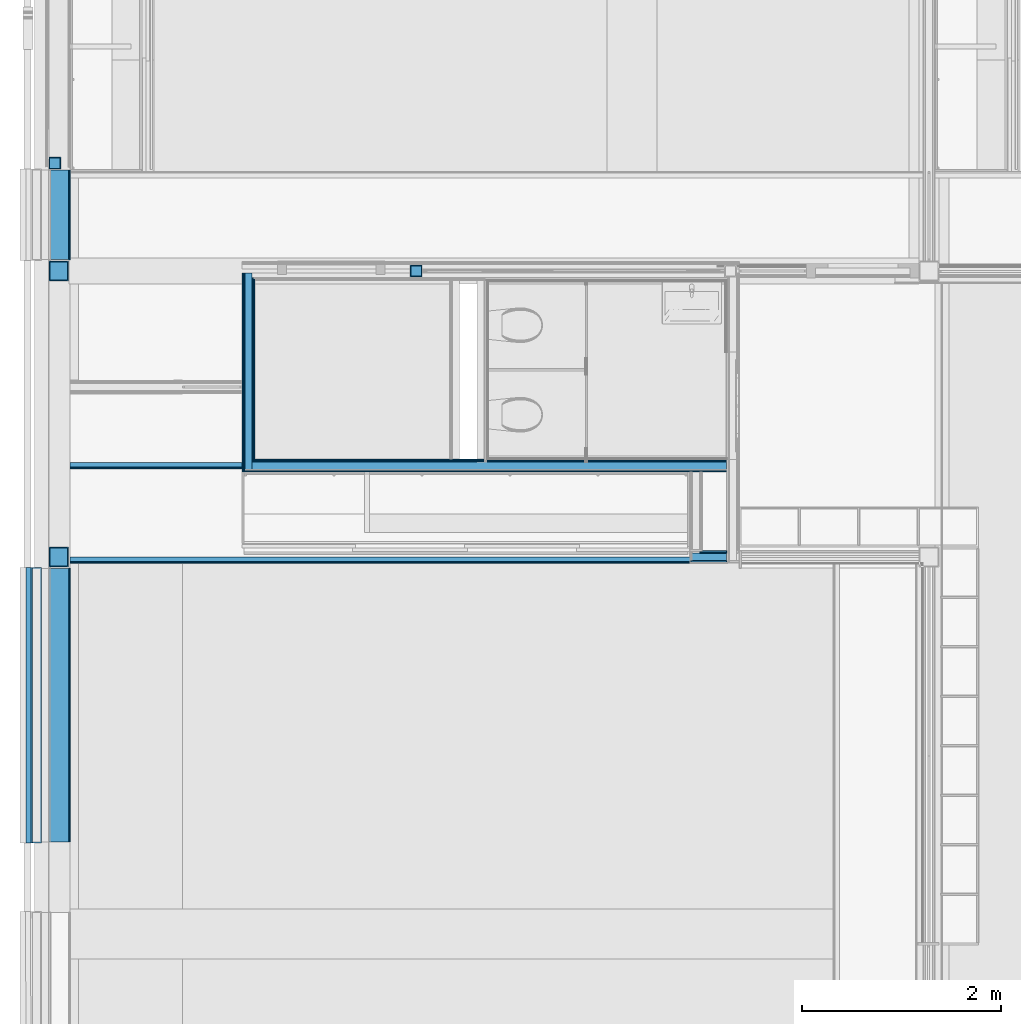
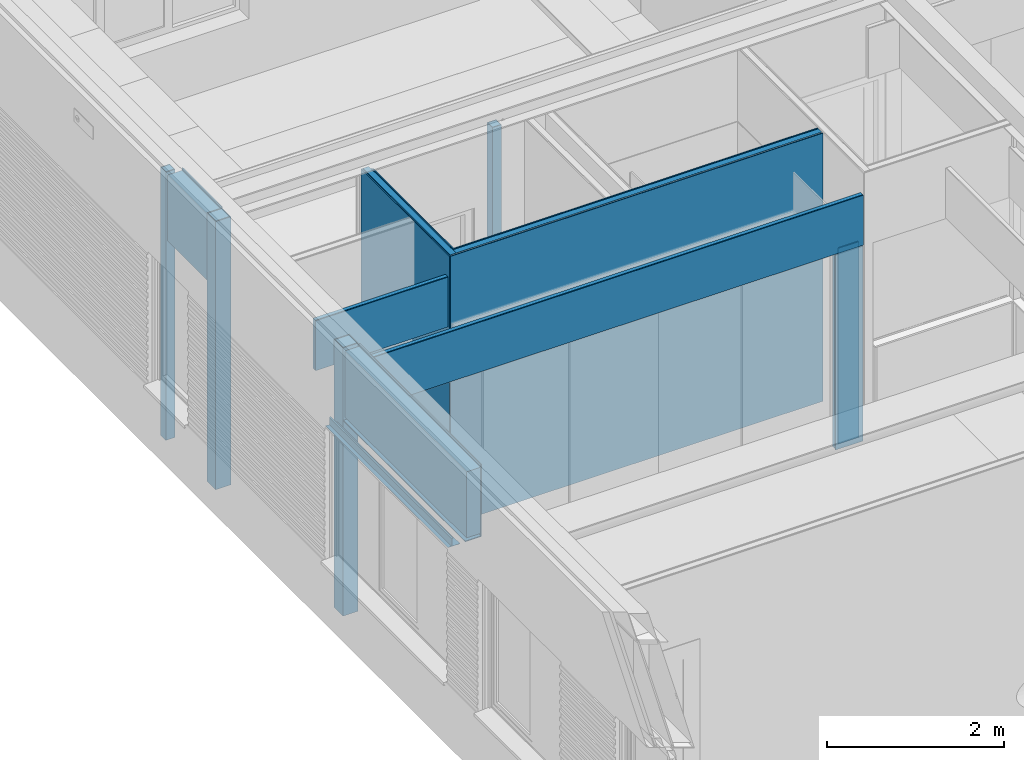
# One storey, part 77 of 137: 32 building element parts, 12 elements without a shape of their own.
"""IFC2X3 building model written with IfcOpenShell, lengths in millimetres."""

from ifc_helpers import new_model, entity, si_unit, converted_unit, derived_unit, money_unit, direction, frame, origin_with_axes, place, context, subcontext, project, spatial, faceted_brep, material, type_object, element, aggregate, save


model = new_model("IFC2X3")

# Units and contexts
model_context = context("Model", 3, precision=0.01, world=origin_with_axes(), true_north=direction((0.0, 1.0)))
body_context = subcontext(model_context, "Body", "Model", "MODEL_VIEW")
ifc_project = project(units=[si_unit("LENGTHUNIT", "METRE", prefix="MILLI"), si_unit("AREAUNIT", "SQUARE_METRE"), si_unit("VOLUMEUNIT", "CUBIC_METRE"), converted_unit("PLANEANGLEUNIT", "DEGREE", entity("IfcPlaneAngleMeasure", 0.0174532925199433), si_unit("PLANEANGLEUNIT", "RADIAN"), dimensions=[0, 0, 0, 0, 0, 0, 0]), money_unit("EUR"), converted_unit("TIMEUNIT", "Year", entity("IfcTimeMeasure", 31556926.0), si_unit("TIMEUNIT", "SECOND"), dimensions=[0, 0, 1, 0, 0, 0, 0]), si_unit("MASSUNIT", "GRAM", prefix="KILO"), si_unit("THERMODYNAMICTEMPERATUREUNIT", "DEGREE_CELSIUS"), si_unit("LUMINOUSINTENSITYUNIT", "LUMEN"), si_unit("ENERGYUNIT", "JOULE", prefix="MEGA"), derived_unit("THERMALCONDUCTANCEUNIT", [(si_unit("POWERUNIT", "WATT"), 1), (si_unit("LENGTHUNIT", "METRE"), -1), (si_unit("THERMODYNAMICTEMPERATUREUNIT", "KELVIN"), -1)]), derived_unit("SPECIFICHEATCAPACITYUNIT", [(si_unit("ENERGYUNIT", "JOULE"), 1), (si_unit("MASSUNIT", "GRAM", prefix="KILO"), -1), (si_unit("THERMODYNAMICTEMPERATUREUNIT", "KELVIN"), -1)]), derived_unit("MASSDENSITYUNIT", [(si_unit("MASSUNIT", "GRAM", prefix="KILO"), 1), (si_unit("VOLUMEUNIT", "CUBIC_METRE"), -1)])], contexts=[model_context])

# Site, building, storey
site_placement = place(None, origin_with_axes())
site = spatial("IfcSite", under=ifc_project, at=site_placement, Name="Site", CompositionType="ELEMENT")
building_placement = place(site_placement, origin_with_axes())
building = spatial("IfcBuilding", under=site, at=building_placement, Name="Naam gebouw", CompositionType="ELEMENT")
storey_placement = place(building_placement, frame((0.0, 0.0, 3960.0), z_axis=(0.0, 0.0, 1.0), x_axis=(1.0, 0.0, 0.0)))
storey = spatial("IfcBuildingStorey", under=building, at=storey_placement, Name="1e verdieping", CompositionType="ELEMENT", Elevation=3960.0)

# Column, building element parts
column_type_1 = type_object("IfcColumnType", Name="120X120X8 120 x 120", PredefinedType="COLUMN")
column_1_placement = place(storey_placement, frame((60.00000000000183, 23409.99984707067, -100.0000000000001), z_axis=(0.0, 0.0, 1.0), x_axis=(1.0, 0.0, 0.0)))
column_1 = element("IfcColumn", 1, at=column_1_placement, inside=storey, type_object=column_type_1, Name="28_Kolom-x", ObjectType="COLUMN")
ifc_material_1 = material(Name="Metaal - Staal C")
building_element_part_1_placement = place(column_1_placement, origin_with_axes())
building_element_part_1 = element("IfcBuildingElementPart", 2, at=building_element_part_1_placement, material=ifc_material_1, Name="Metaal - Staal C", context=body_context, shape_type="Brep", body=[
    faceted_brep([(-60.0, 59.99999999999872, 0.0), (-60.0, -59.99999999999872, 0.0), (-60.0, -59.99999999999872, 3699.999999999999), (-60.0, 59.99999999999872, 3699.999999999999), (60.0, 59.99999999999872, 0.0), (60.0, -59.99999999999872, 0.0), (-52.0, -51.9999999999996, 0.0), (52.00000000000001, -51.9999999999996, 0.0), (52.00000000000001, 51.9999999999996, 0.0), (-52.0, 51.9999999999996, 0.0), (60.0, -59.99999999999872, 3699.999999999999), (60.0, 59.99999999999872, 3699.999999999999), (-52.0, -51.9999999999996, 3699.999999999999), (-52.0, 51.9999999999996, 3699.999999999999), (52.00000000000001, 51.9999999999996, 3699.999999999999), (52.00000000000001, -51.9999999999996, 3699.999999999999)], [[[0, 1, 2, 3]], [[0, 4, 5, 1], [6, 7, 8, 9]], [[1, 5, 10, 2]], [[3, 2, 10, 11], [12, 13, 14, 15]], [[4, 0, 3, 11]], [[5, 4, 11, 10]], [[7, 6, 12, 15]], [[8, 7, 15, 14]], [[9, 8, 14, 13]], [[6, 9, 13, 12]]]),
])
ifc_material_2 = material(Name="Lucht kolommen")
building_element_part_2_placement = place(column_1_placement, origin_with_axes())
building_element_part_2 = element("IfcBuildingElementPart", 3, at=building_element_part_2_placement, material=ifc_material_2, Name="Lucht kolommen", context=body_context, shape_type="Brep", body=[
    faceted_brep([(51.99999999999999, -51.9999999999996, 0.0), (51.99999999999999, 51.9999999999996, 0.0), (51.99999999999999, 51.9999999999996, 3699.999999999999), (51.99999999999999, -51.9999999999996, 3699.999999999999), (-52.0, -51.9999999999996, 0.0), (-52.0, 51.9999999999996, 0.0), (-52.0, 51.9999999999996, 3699.999999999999), (-52.0, -51.9999999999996, 3699.999999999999)], [[[0, 1, 2, 3]], [[0, 4, 5, 1]], [[1, 5, 6, 2]], [[3, 2, 6, 7]], [[4, 0, 3, 7]], [[5, 4, 7, 6]]]),
])
aggregate(column_1, [building_element_part_1, building_element_part_2])

# Proxy, building element parts
building_element_proxy_type_1 = type_object("IfcBuildingElementProxyType", Name="22 Metal stud 125 gips 125", PredefinedType="NOTDEFINED")
proxy_1_placement = place(storey_placement, frame((1944.000000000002, 20367.47621406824, -100.0000000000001), z_axis=(0.0, 0.0, 1.0), x_axis=(1.0, 0.0, 0.0)))
proxy_1 = element("IfcBuildingElementProxy", 4, at=proxy_1_placement, inside=storey, type_object=building_element_proxy_type_1, Name="_Wand-x")
ifc_material_3 = material(Name="Gipsplaat")
building_element_part_3_placement = place(proxy_1_placement, origin_with_axes())
building_element_part_3 = element("IfcBuildingElementPart", 5, at=building_element_part_3_placement, material=ifc_material_3, Name="Gipsplaat", context=body_context, shape_type="Brep", body=[
    faceted_brep([(4870.999999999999, 50.00000000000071, 0.0), (124.9999999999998, 50.00000000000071, 0.0), (124.9999999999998, 62.5, 0.0), (4870.999999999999, 62.5, 0.0), (4870.999999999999, 50.00000000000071, 3700.0), (124.9999999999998, 50.00000000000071, 3700.0), (124.9999999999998, 62.5, 3700.0), (4870.999999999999, 62.5, 3700.0)], [[[0, 1, 2, 3]], [[4, 5, 1, 0]], [[2, 1, 5, 6]], [[3, 2, 6, 7]], [[3, 7, 4, 0]], [[7, 6, 5, 4]]]),
])
building_element_part_4_placement = place(proxy_1_placement, origin_with_axes())
building_element_part_4 = element("IfcBuildingElementPart", 6, at=building_element_part_4_placement, material=ifc_material_3, Name="Gipsplaat", context=body_context, shape_type="Brep", body=[
    faceted_brep([(4870.999999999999, 37.50000000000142, 0.0), (112.4999999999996, 37.50000000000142, 0.0), (112.4999999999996, 50.00000000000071, 0.0), (4870.999999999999, 50.00000000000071, 0.0), (4870.999999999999, 37.50000000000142, 3700.0), (112.4999999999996, 37.50000000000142, 3700.0), (112.4999999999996, 50.00000000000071, 3700.0), (4870.999999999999, 50.00000000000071, 3700.0)], [[[0, 1, 2, 3]], [[4, 5, 1, 0]], [[2, 1, 5, 6]], [[3, 2, 6, 7]], [[3, 7, 4, 0]], [[7, 6, 5, 4]]]),
])
ifc_material_4 = material(Name="ALG - LICHTE SCHEIDINGSWAND")
building_element_part_5_placement = place(proxy_1_placement, origin_with_axes())
building_element_part_5 = element("IfcBuildingElementPart", 7, at=building_element_part_5_placement, material=ifc_material_4, Name="ALG - LICHTE SCHEIDINGSWAND", context=body_context, shape_type="Brep", body=[
    faceted_brep([(4870.999999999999, -37.50000000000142, 0.0), (99.99999999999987, -37.50000000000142, 0.0), (99.99999999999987, 37.50000000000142, 0.0), (4870.999999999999, 37.50000000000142, 0.0), (4870.999999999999, -37.49999999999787, 3700.0), (99.99999999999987, -37.50000000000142, 3700.0), (99.99999999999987, 37.50000000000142, 3700.0), (4870.999999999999, 37.50000000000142, 3700.0)], [[[0, 1, 2, 3]], [[4, 5, 1, 0]], [[2, 1, 5, 6]], [[3, 2, 6, 7]], [[3, 7, 4, 0]], [[7, 6, 5, 4]]]),
])
building_element_part_6_placement = place(proxy_1_placement, origin_with_axes())
building_element_part_6 = element("IfcBuildingElementPart", 8, at=building_element_part_6_placement, material=ifc_material_3, Name="Gipsplaat", context=body_context, shape_type="Brep", body=[
    faceted_brep([(4870.999999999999, -62.5, 0.0), (12.49999999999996, -62.5, 0.0), (12.49999999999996, -50.00000000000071, 0.0), (4870.999999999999, -50.00000000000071, 0.0), (4870.999999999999, -62.5, 3700.0), (12.49999999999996, -62.5, 3700.0), (12.49999999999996, -50.00000000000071, 3700.0), (4870.999999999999, -50.00000000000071, 3700.0)], [[[0, 1, 2, 3]], [[4, 5, 1, 0]], [[2, 1, 5, 6]], [[3, 2, 6, 7]], [[3, 7, 4, 0]], [[7, 6, 5, 4]]]),
])
aggregate(proxy_1, [building_element_part_3, building_element_part_4, building_element_part_5, building_element_part_6])

proxy_2_placement = place(storey_placement, frame((1944.000000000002, 22324.97621406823, -100.0000000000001), z_axis=(0.0, 0.0, 1.0), x_axis=(0.0, -1.0, 0.0)))
proxy_2 = element("IfcBuildingElementProxy", 9, at=proxy_2_placement, inside=storey, type_object=building_element_proxy_type_1, Name="_Wand-x")
building_element_part_7_placement = place(proxy_2_placement, origin_with_axes())
building_element_part_7 = element("IfcBuildingElementPart", 10, at=building_element_part_7_placement, material=ifc_material_3, Name="Gipsplaat", context=body_context, shape_type="Brep", body=[
    faceted_brep([(1907.499999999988, 112.5, 0.0), (82.49999999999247, 112.4999999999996, 0.0), (82.49999999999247, 124.9999999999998, 0.0), (1907.499999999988, 124.9999999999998, 0.0), (1907.499999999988, 112.5, 3700.0), (82.49999999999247, 112.5, 3700.0), (82.49999999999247, 124.9999999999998, 3700.0), (1907.499999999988, 125.0000000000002, 3700.0)], [[[0, 1, 2, 3]], [[4, 5, 1, 0]], [[2, 1, 5, 6]], [[3, 2, 6, 7]], [[3, 7, 4, 0]], [[7, 6, 5, 4]]]),
])
building_element_part_8_placement = place(proxy_2_placement, origin_with_axes())
building_element_part_8 = element("IfcBuildingElementPart", 11, at=building_element_part_8_placement, material=ifc_material_3, Name="Gipsplaat", context=body_context, shape_type="Brep", body=[
    faceted_brep([(1919.999999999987, 99.99999999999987, 0.0), (69.99999999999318, 99.99999999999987, 0.0), (69.99999999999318, 112.4999999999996, 0.0), (1919.999999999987, 112.5, 0.0), (1919.999999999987, 100.0000000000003, 3700.0), (69.99999999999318, 99.99999999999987, 3700.0), (69.99999999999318, 112.5, 3700.0), (1919.999999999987, 112.5, 3700.0)], [[[0, 1, 2, 3]], [[4, 5, 1, 0]], [[2, 1, 5, 6]], [[3, 2, 6, 7]], [[3, 7, 4, 0]], [[7, 6, 5, 4]]]),
])
building_element_part_9_placement = place(proxy_2_placement, origin_with_axes())
building_element_part_9 = element("IfcBuildingElementPart", 12, at=building_element_part_9_placement, material=ifc_material_4, Name="ALG - LICHTE SCHEIDINGSWAND", context=body_context, shape_type="Brep", body=[
    faceted_brep([(1994.99999999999, 24.99999999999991, 0.0), (19.99999999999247, 24.99999999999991, 0.0), (19.99999999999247, 99.99999999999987, 0.0), (1994.99999999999, 99.99999999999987, 0.0), (1994.99999999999, 25.00000000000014, 3700.0), (19.99999999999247, 25.00000000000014, 3700.0), (19.99999999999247, 99.99999999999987, 3700.0), (1994.99999999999, 100.0000000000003, 3700.0)], [[[0, 1, 2, 3]], [[4, 5, 1, 0]], [[2, 1, 5, 6]], [[3, 2, 6, 7]], [[3, 7, 4, 0]], [[7, 6, 5, 4]]]),
])
building_element_part_10_placement = place(proxy_2_placement, origin_with_axes())
building_element_part_10 = element("IfcBuildingElementPart", 13, at=building_element_part_10_placement, material=ifc_material_3, Name="Gipsplaat", context=body_context, shape_type="Brep", body=[
    faceted_brep([(2007.49999999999, 12.49999999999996, 0.0), (19.99999999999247, 12.49999999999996, 0.0), (19.99999999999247, 24.99999999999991, 0.0), (2007.49999999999, 24.99999999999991, 0.0), (2007.49999999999, 12.50000000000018, 3700.0), (19.99999999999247, 12.50000000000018, 3700.0), (19.99999999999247, 25.00000000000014, 3700.0), (2007.49999999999, 25.00000000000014, 3700.0)], [[[0, 1, 2, 3]], [[4, 5, 1, 0]], [[2, 1, 5, 6]], [[3, 2, 6, 7]], [[3, 7, 4, 0]], [[7, 6, 5, 4]]]),
])
building_element_part_11_placement = place(proxy_2_placement, origin_with_axes())
building_element_part_11 = element("IfcBuildingElementPart", 14, at=building_element_part_11_placement, material=ifc_material_3, Name="Gipsplaat", context=body_context, shape_type="Brep", body=[
    faceted_brep([(2019.999999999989, 0.0, 0.0), (19.99999999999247, 0.0, 0.0), (19.99999999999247, 12.49999999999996, 0.0), (2019.999999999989, 12.49999999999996, 0.0), (2019.999999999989, 0.0, 3700.0), (19.99999999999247, 0.0, 3700.0), (19.99999999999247, 12.50000000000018, 3700.0), (2019.999999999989, 12.50000000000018, 3700.0)], [[[0, 1, 2, 3]], [[4, 5, 1, 0]], [[2, 1, 5, 6]], [[3, 2, 6, 7]], [[3, 7, 4, 0]], [[7, 6, 5, 4]]]),
])
aggregate(proxy_2, [building_element_part_7, building_element_part_8, building_element_part_9, building_element_part_10, building_element_part_11])

# Column, building element parts
column_type_2 = type_object("IfcColumnType", Name="200X200X10 200 x 200", PredefinedType="COLUMN")
column_2_placement = place(storey_placement, frame((99.99999999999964, 19449.9998112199, -100.0000000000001), z_axis=(0.0, 0.0, 1.0), x_axis=(1.0, 0.0, 0.0)))
column_2 = element("IfcColumn", 15, at=column_2_placement, inside=storey, type_object=column_type_2, Name="28_Kolom-x", ObjectType="COLUMN")
ifc_material_5 = material(Name="Beton gewapend C")
building_element_part_12_placement = place(column_2_placement, origin_with_axes())
building_element_part_12 = element("IfcBuildingElementPart", 16, at=building_element_part_12_placement, material=ifc_material_5, Name="Beton gewapend C", context=body_context, shape_type="Brep", body=[
    faceted_brep([(-89.99999999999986, 89.99999999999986, 3685.000001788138), (89.99999999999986, 89.99999999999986, 3685.000001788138), (89.99999999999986, 89.99999999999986, 0.0), (-89.99999999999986, 89.99999999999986, 0.0), (89.99999999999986, -89.99999999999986, 3685.000001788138), (-89.99999999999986, -89.99999999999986, 3685.000001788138), (89.99999999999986, -89.99999999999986, 0.0), (-89.99999999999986, -89.99999999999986, 0.0)], [[[0, 1, 2, 3]], [[4, 1, 0, 5]], [[1, 4, 6, 2]], [[2, 6, 7, 3]], [[5, 0, 3, 7]], [[4, 5, 7, 6]]]),
    faceted_brep([(89.99999999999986, -89.99999999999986, 3695.000001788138), (89.99999999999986, 89.99999999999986, 3695.000001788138), (89.99999999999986, 89.99999999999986, 3699.999999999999), (89.99999999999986, -89.99999999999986, 3699.999999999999), (-89.99999999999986, 89.99999999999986, 3695.000001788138), (-89.99999999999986, -89.99999999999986, 3695.000001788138), (-89.99999999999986, 89.99999999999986, 3699.999999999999), (-89.99999999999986, -89.99999999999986, 3699.999999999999)], [[[0, 1, 2, 3]], [[4, 1, 0, 5]], [[1, 4, 6, 2]], [[2, 6, 7, 3]], [[5, 0, 3, 7]], [[4, 5, 7, 6]]]),
])
building_element_part_13_placement = place(column_2_placement, origin_with_axes())
building_element_part_13 = element("IfcBuildingElementPart", 17, at=building_element_part_13_placement, material=ifc_material_1, Name="Metaal - Staal C", context=body_context, shape_type="Brep", body=[
    faceted_brep([(-100.0, -100.0000000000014, 0.0), (100.0, -100.0000000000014, 0.0), (100.0, -100.0000000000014, 3699.999999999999), (-100.0, -100.0000000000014, 3699.999999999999), (-100.0, 100.0000000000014, 0.0), (100.0, 100.0000000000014, 0.0), (-90.00000000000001, -89.99999999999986, 0.0), (90.00000000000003, -89.99999999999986, 0.0), (90.00000000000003, 89.99999999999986, 0.0), (-90.00000000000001, 89.99999999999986, 0.0), (100.0, 100.0000000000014, 3699.999999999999), (-100.0, 100.0000000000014, 3699.999999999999), (-90.00000000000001, -89.99999999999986, 3699.999999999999), (-90.00000000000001, 89.99999999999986, 3699.999999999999), (90.00000000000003, 89.99999999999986, 3699.999999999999), (90.00000000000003, -89.99999999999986, 3699.999999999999)], [[[0, 1, 2, 3]], [[0, 4, 5, 1], [6, 7, 8, 9]], [[1, 5, 10, 2]], [[3, 2, 10, 11], [12, 13, 14, 15]], [[4, 0, 3, 11]], [[5, 4, 11, 10]], [[7, 6, 12, 15]], [[8, 7, 15, 14]], [[9, 8, 14, 13]], [[6, 9, 13, 12]]]),
])
aggregate(column_2, [building_element_part_12, building_element_part_13])

column_3_placement = place(storey_placement, frame((100.0000000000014, 22324.99984707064, -100.0000000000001), z_axis=(0.0, 0.0, 1.0), x_axis=(1.0, 0.0, 0.0)))
column_3 = element("IfcColumn", 18, at=column_3_placement, inside=storey, type_object=column_type_2, Name="28_Kolom-x", ObjectType="COLUMN")
building_element_part_14_placement = place(column_3_placement, origin_with_axes())
building_element_part_14 = element("IfcBuildingElementPart", 19, at=building_element_part_14_placement, material=ifc_material_1, Name="Metaal - Staal C", context=body_context, shape_type="Brep", body=[
    faceted_brep([(-100.0, -100.0000000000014, 0.0), (100.0, -100.0000000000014, 0.0), (100.0, -100.0000000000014, 3699.999999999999), (-100.0, -100.0000000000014, 3699.999999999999), (-100.0, 100.0000000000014, 0.0), (100.0, 100.0000000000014, 0.0), (-90.00000000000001, -89.99999999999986, 0.0), (90.00000000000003, -89.99999999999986, 0.0), (90.00000000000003, 89.99999999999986, 0.0), (-90.00000000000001, 89.99999999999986, 0.0), (100.0, 100.0000000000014, 3699.999999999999), (-100.0, 100.0000000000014, 3699.999999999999), (-90.00000000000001, -89.99999999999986, 3699.999999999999), (-90.00000000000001, 89.99999999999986, 3699.999999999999), (90.00000000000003, 89.99999999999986, 3699.999999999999), (90.00000000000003, -89.99999999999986, 3699.999999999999)], [[[0, 1, 2, 3]], [[0, 4, 5, 1], [6, 7, 8, 9]], [[1, 5, 10, 2]], [[3, 2, 10, 11], [12, 13, 14, 15]], [[4, 0, 3, 11]], [[5, 4, 11, 10]], [[7, 6, 12, 15]], [[8, 7, 15, 14]], [[9, 8, 14, 13]], [[6, 9, 13, 12]]]),
])
building_element_part_15_placement = place(column_3_placement, origin_with_axes())
building_element_part_15 = element("IfcBuildingElementPart", 20, at=building_element_part_15_placement, material=ifc_material_5, Name="Beton gewapend C", context=body_context, shape_type="Brep", body=[
    faceted_brep([(-89.99999999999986, 89.99999999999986, 3685.000001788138), (89.99999999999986, 89.99999999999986, 3685.000001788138), (89.99999999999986, 89.99999999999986, 0.0), (-89.99999999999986, 89.99999999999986, 0.0), (89.99999999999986, -89.99999999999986, 3685.000001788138), (-89.99999999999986, -89.99999999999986, 3685.000001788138), (89.99999999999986, -89.99999999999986, 0.0), (-89.99999999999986, -89.99999999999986, 0.0)], [[[0, 1, 2, 3]], [[4, 1, 0, 5]], [[1, 4, 6, 2]], [[2, 6, 7, 3]], [[5, 0, 3, 7]], [[4, 5, 7, 6]]]),
    faceted_brep([(89.99999999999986, -89.99999999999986, 3695.000001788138), (89.99999999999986, 89.99999999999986, 3695.000001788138), (89.99999999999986, 89.99999999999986, 3699.999999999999), (89.99999999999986, -89.99999999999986, 3699.999999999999), (-89.99999999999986, 89.99999999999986, 3695.000001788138), (-89.99999999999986, -89.99999999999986, 3695.000001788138), (-89.99999999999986, 89.99999999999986, 3699.999999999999), (-89.99999999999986, -89.99999999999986, 3699.999999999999)], [[[0, 1, 2, 3]], [[4, 1, 0, 5]], [[1, 4, 6, 2]], [[2, 6, 7, 3]], [[5, 0, 3, 7]], [[4, 5, 7, 6]]]),
])
aggregate(column_3, [building_element_part_14, building_element_part_15])

# Proxy, building element parts
building_element_proxy_type_2 = type_object("IfcBuildingElementProxyType", Name="22 Metal stud 62.5 plafond 63", PredefinedType="NOTDEFINED")
proxy_3_placement = place(storey_placement, frame((6815.0, 19387.4998112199, 2600.0), z_axis=(0.0, 0.0, 1.0), x_axis=(-1.0, 0.0, 0.0)))
proxy_3 = element("IfcBuildingElementProxy", 21, at=proxy_3_placement, inside=storey, type_object=building_element_proxy_type_2, Name="_Wand-x")
building_element_part_16_placement = place(proxy_3_placement, origin_with_axes())
building_element_part_16 = element("IfcBuildingElementPart", 22, at=building_element_part_16_placement, material=ifc_material_3, Name="Gipsplaat", context=body_context, shape_type="Brep", body=[
    faceted_brep([(0.0, 0.0, 11.99999999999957), (0.0, -12.49999999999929, 11.99999999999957), (0.0, -12.49999999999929, 700.0000000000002), (0.0, 0.0, 700.0000000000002), (6601.000000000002, -12.49999999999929, 11.99999999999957), (6601.000000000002, 0.0, 11.99999999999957), (6601.000000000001, -12.49999999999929, 700.0000000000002), (6601.000000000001, 0.0, 700.0000000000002)], [[[0, 1, 2, 3]], [[4, 1, 0, 5]], [[1, 4, 6, 2]], [[2, 6, 7, 3]], [[5, 0, 3, 7]], [[4, 5, 7, 6]]]),
])
building_element_part_17_placement = place(proxy_3_placement, origin_with_axes())
building_element_part_17 = element("IfcBuildingElementPart", 23, at=building_element_part_17_placement, material=ifc_material_4, Name="ALG - LICHTE SCHEIDINGSWAND", context=body_context, shape_type="Brep", body=[
    faceted_brep([(0.0, -12.49999999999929, 11.99999999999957), (0.0, -62.5, 11.99999999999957), (0.0, -62.5, 700.0000000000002), (0.0, -12.49999999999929, 700.0000000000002), (6601.000000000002, -62.5, 11.99999999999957), (6601.000000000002, -12.49999999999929, 11.99999999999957), (6601.000000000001, -62.5, 700.0000000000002), (6601.000000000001, -12.49999999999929, 700.0000000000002)], [[[0, 1, 2, 3]], [[4, 1, 0, 5]], [[1, 4, 6, 2]], [[2, 6, 7, 3]], [[5, 0, 3, 7]], [[4, 5, 7, 6]]]),
])
aggregate(proxy_3, [building_element_part_16, building_element_part_17])

building_element_proxy_type_3 = type_object("IfcBuildingElementProxyType", Name="22 Metal stud 125 oregon pine 125", PredefinedType="NOTDEFINED")
proxy_4_placement = place(storey_placement, frame((6815.0, 19387.4998112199, -100.0000000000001), z_axis=(0.0, 0.0, 1.0), x_axis=(-1.0, 0.0, 0.0)))
proxy_4 = element("IfcBuildingElementProxy", 24, at=proxy_4_placement, inside=storey, type_object=building_element_proxy_type_3, Name="_Wand-x")
building_element_part_18_placement = place(proxy_4_placement, origin_with_axes())
building_element_part_18 = element("IfcBuildingElementPart", 25, at=building_element_part_18_placement, material=ifc_material_3, Name="Gipsplaat", context=body_context, shape_type="Brep", body=[
    faceted_brep([(270.9999999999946, -100.0000000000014, 2700.0), (0.0, -100.0000000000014, 2700.0), (0.0, -112.5000000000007, 2700.0), (270.9999999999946, -112.5000000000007, 2700.0), (270.9999999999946, -100.0000000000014, 0.0), (0.0, -100.0000000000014, 0.0), (0.0, -112.5000000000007, 0.0), (270.9999999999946, -112.5000000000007, 0.0)], [[[0, 1, 2, 3]], [[4, 5, 1, 0]], [[2, 1, 5, 6]], [[3, 2, 6, 7]], [[3, 7, 4, 0]], [[7, 6, 5, 4]]]),
])
building_element_part_19_placement = place(proxy_4_placement, origin_with_axes())
building_element_part_19 = element("IfcBuildingElementPart", 26, at=building_element_part_19_placement, material=ifc_material_3, Name="Gipsplaat", context=body_context, shape_type="Brep", body=[
    faceted_brep([(258.4999999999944, -112.5000000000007, 2700.0), (0.0, -112.5000000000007, 2700.0), (0.0, -125.0, 2700.0), (258.4999999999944, -125.0, 2700.0), (258.4999999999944, -112.5000000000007, 0.0), (0.0, -112.5000000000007, 0.0), (0.0, -125.0, 0.0), (258.4999999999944, -125.0, 0.0)], [[[0, 1, 2, 3]], [[4, 5, 1, 0]], [[2, 1, 5, 6]], [[3, 2, 6, 7]], [[3, 7, 4, 0]], [[7, 6, 5, 4]]]),
])
building_element_part_20_placement = place(proxy_4_placement, origin_with_axes())
building_element_part_20 = element("IfcBuildingElementPart", 27, at=building_element_part_20_placement, material=ifc_material_3, Name="Gipsplaat", context=body_context, shape_type="Brep", body=[
    faceted_brep([(358.499999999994, -12.49999999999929, 2700.0), (0.0, -12.49999999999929, 2700.0), (0.0, -24.99999999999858, 2700.0), (358.499999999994, -24.99999999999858, 2700.0), (358.499999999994, -12.49999999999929, 0.0), (0.0, -12.49999999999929, 0.0), (0.0, -24.99999999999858, 0.0), (358.499999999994, -24.99999999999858, 0.0)], [[[0, 1, 2, 3]], [[4, 5, 1, 0]], [[2, 1, 5, 6]], [[3, 2, 6, 7]], [[3, 7, 4, 0]], [[7, 6, 5, 4]]]),
])
building_element_part_21_placement = place(proxy_4_placement, origin_with_axes())
building_element_part_21 = element("IfcBuildingElementPart", 28, at=building_element_part_21_placement, material=ifc_material_4, Name="ALG - LICHTE SCHEIDINGSWAND", context=body_context, shape_type="Brep", body=[
    faceted_brep([(345.9999999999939, -24.99999999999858, 2700.0), (0.0, -24.99999999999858, 2700.0), (0.0, -100.0000000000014, 2700.0), (345.9999999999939, -100.0000000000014, 2700.0), (345.9999999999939, -24.99999999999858, 0.0), (0.0, -24.99999999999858, 0.0), (0.0, -100.0000000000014, 0.0), (345.9999999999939, -100.0000000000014, 0.0)], [[[0, 1, 2, 3]], [[4, 5, 1, 0]], [[2, 1, 5, 6]], [[3, 2, 6, 7]], [[3, 7, 4, 0]], [[7, 6, 5, 4]]]),
])
aggregate(proxy_4, [building_element_part_18, building_element_part_19, building_element_part_20, building_element_part_21])

proxy_5_placement = place(storey_placement, frame((1954.000000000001, 20337.47621406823, 2600.0), z_axis=(0.0, 0.0, 1.0), x_axis=(-1.0, 0.0, 0.0)))
proxy_5 = element("IfcBuildingElementProxy", 29, at=proxy_5_placement, inside=storey, type_object=building_element_proxy_type_2, Name="_Wand-x")
building_element_part_22_placement = place(proxy_5_placement, origin_with_axes())
building_element_part_22 = element("IfcBuildingElementPart", 30, at=building_element_part_22_placement, material=ifc_material_4, Name="ALG - LICHTE SCHEIDINGSWAND", context=body_context, shape_type="Brep", body=[
    faceted_brep([(9.999999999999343, -62.5, 11.99999999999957), (1740.000000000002, -62.5, 11.99999999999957), (1740.000000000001, -62.5, 700.0000000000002), (0.0, -62.5, 700.0000000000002), (0.0, -62.5, 0.0), (9.999999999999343, -62.5, 0.0), (9.999999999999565, -12.49999999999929, 11.99999999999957), (1740.000000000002, -12.49999999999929, 11.99999999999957), (1740.000000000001, -12.49999999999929, 700.0000000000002), (0.0, -12.49999999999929, 700.0000000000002), (0.0, -12.49999999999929, 0.0), (9.999999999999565, -12.49999999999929, 0.0)], [[[0, 1, 2, 3, 4, 5]], [[1, 0, 6, 7]], [[1, 7, 8, 2]], [[3, 2, 8, 9]], [[4, 3, 9, 10]], [[11, 5, 4, 10]], [[0, 5, 11, 6]], [[6, 11, 10, 9, 8, 7]]]),
])
building_element_part_23_placement = place(proxy_5_placement, origin_with_axes())
building_element_part_23 = element("IfcBuildingElementPart", 31, at=building_element_part_23_placement, material=ifc_material_3, Name="Gipsplaat", context=body_context, shape_type="Brep", body=[
    faceted_brep([(9.999999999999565, -12.49999999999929, 11.99999999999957), (1740.000000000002, -12.49999999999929, 11.99999999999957), (1740.000000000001, -12.49999999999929, 700.0000000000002), (0.0, -12.49999999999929, 700.0000000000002), (0.0, -12.49999999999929, 0.0), (9.999999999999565, -12.49999999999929, 0.0), (9.999999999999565, 0.0, 11.99999999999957), (1740.000000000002, 0.0, 11.99999999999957), (1740.000000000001, 0.0, 700.0000000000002), (0.0, 0.0, 700.0000000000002), (0.0, 0.0, 0.0), (9.999999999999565, 0.0, 0.0)], [[[0, 1, 2, 3, 4, 5]], [[1, 0, 6, 7]], [[1, 7, 8, 2]], [[3, 2, 8, 9]], [[4, 3, 9, 10]], [[11, 5, 4, 10]], [[0, 5, 11, 6]], [[6, 11, 10, 9, 8, 7]]]),
])
aggregate(proxy_5, [building_element_part_22, building_element_part_23])

# Beam, building element parts
beam_type_1 = type_object("IfcBeamType", Name="41 Latei/geveldrager 158 x 112", PredefinedType="BEAM")
beam_1_placement = place(storey_placement, frame((-180.0000000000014, 16574.9998112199, 2610.0), z_axis=(0.0, 0.0, 1.0), x_axis=(1.0, 0.0, 0.0)))
beam_1 = element("IfcBeam", 32, at=beam_1_placement, inside=storey, type_object=beam_type_1, Name="_Regenwaterafvoer-x", ObjectType="BEAM")
building_element_part_24_placement = place(beam_1_placement, origin_with_axes())
building_element_part_24 = element("IfcBuildingElementPart", 33, at=building_element_part_24_placement, material=ifc_material_1, Name="Metaal - Staal C", context=body_context, shape_type="Brep", body=[
    faceted_brep([(3.000000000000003, 2769.999999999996, -3.000000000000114), (108.0, 2769.999999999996, -3.000000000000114), (108.0, 0.0, -3.000000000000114), (3.000000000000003, 0.0, -3.000000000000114), (3.000000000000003, 2769.999999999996, 0.0), (108.0, 2769.999999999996, 0.0), (108.0, 0.0, 0.0), (3.000000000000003, 0.0, 0.0)], [[[0, 1, 2, 3]], [[0, 4, 5, 1]], [[1, 5, 6, 2]], [[3, 2, 6, 7]], [[4, 0, 3, 7]], [[5, 4, 7, 6]]]),
])
building_element_part_25_placement = place(beam_1_placement, origin_with_axes())
building_element_part_25 = element("IfcBuildingElementPart", 34, at=building_element_part_25_placement, material=ifc_material_1, Name="Metaal - Staal C", context=body_context, shape_type="Brep", body=[
    faceted_brep([(-49.99999999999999, 2769.999999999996, 6.55651533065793e-07), (-49.99999999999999, 2769.999999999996, -3.000000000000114), (-49.99999999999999, 0.0, -3.000000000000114), (-49.99999999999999, 0.0, 6.55651533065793e-07), (-5.960468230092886e-08, 2769.999999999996, 6.55651533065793e-07), (-5.960468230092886e-08, 2769.999999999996, 99.3417707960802), (16.54654975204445, 2769.999999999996, 108.8949262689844), (18.04655007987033, 2769.999999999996, 106.2968498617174), (3.000000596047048, 2769.999999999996, 96.99999988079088), (3.000000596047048, 2769.999999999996, 6.55651533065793e-07), (3.000000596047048, 2769.999999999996, -3.000000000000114), (3.000000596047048, 0.0, -3.000000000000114), (3.000000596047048, 0.0, 6.55651533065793e-07), (3.000000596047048, 0.0, 96.99999988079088), (18.04655007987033, 0.0, 106.2968498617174), (16.54654975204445, 0.0, 108.8949262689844), (-5.960468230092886e-08, 0.0, 99.3417707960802), (-5.960468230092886e-08, 0.0, 6.55651533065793e-07)], [[[0, 1, 2, 3]], [[0, 4, 5, 6, 7, 8, 9, 10, 1]], [[1, 10, 11, 2]], [[3, 2, 11, 12, 13, 14, 15, 16, 17]], [[4, 0, 3, 17]], [[5, 4, 17, 16]], [[6, 5, 16, 15]], [[7, 6, 15, 14]], [[8, 7, 14, 13]], [[9, 8, 13, 12]], [[10, 9, 12, 11]]]),
])
aggregate(beam_1, [building_element_part_24, building_element_part_25])

# Column, building element parts
column_4_placement = place(storey_placement, frame((3694.000000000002, 22324.97621406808, -100.0000000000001), z_axis=(0.0, 0.0, 1.0), x_axis=(1.0, 0.0, 0.0)))
column_4 = element("IfcColumn", 35, at=column_4_placement, inside=storey, type_object=column_type_1, Name="28_Kolom-x", ObjectType="COLUMN")
building_element_part_26_placement = place(column_4_placement, origin_with_axes())
building_element_part_26 = element("IfcBuildingElementPart", 36, at=building_element_part_26_placement, material=ifc_material_2, Name="Lucht kolommen", context=body_context, shape_type="Brep", body=[
    faceted_brep([(52.00000000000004, -51.9999999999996, 0.0), (52.00000000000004, 51.9999999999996, 0.0), (52.00000000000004, 51.9999999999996, 3699.999999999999), (52.00000000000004, -51.9999999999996, 3699.999999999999), (-52.00000000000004, -51.9999999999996, 0.0), (-52.00000000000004, 51.9999999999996, 0.0), (-52.00000000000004, 51.9999999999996, 3699.999999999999), (-52.00000000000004, -51.9999999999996, 3699.999999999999)], [[[0, 1, 2, 3]], [[0, 4, 5, 1]], [[1, 5, 6, 2]], [[3, 2, 6, 7]], [[4, 0, 3, 7]], [[5, 4, 7, 6]]]),
])
building_element_part_27_placement = place(column_4_placement, origin_with_axes())
building_element_part_27 = element("IfcBuildingElementPart", 37, at=building_element_part_27_placement, material=ifc_material_1, Name="Metaal - Staal C", context=body_context, shape_type="Brep", body=[
    faceted_brep([(-60.00000000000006, 59.99999999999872, 0.0), (-60.00000000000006, -59.99999999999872, 0.0), (-60.00000000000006, -59.99999999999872, 3699.999999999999), (-60.00000000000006, 59.99999999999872, 3699.999999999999), (60.00000000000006, 59.99999999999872, 0.0), (60.00000000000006, -59.99999999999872, 0.0), (-52.00000000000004, -51.9999999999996, 0.0), (52.00000000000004, -51.9999999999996, 0.0), (52.00000000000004, 51.9999999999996, 0.0), (-52.00000000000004, 51.9999999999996, 0.0), (60.00000000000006, -59.99999999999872, 3699.999999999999), (60.00000000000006, 59.99999999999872, 3699.999999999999), (-52.00000000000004, -51.9999999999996, 3699.999999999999), (-52.00000000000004, 51.9999999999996, 3699.999999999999), (52.00000000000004, 51.9999999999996, 3699.999999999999), (52.00000000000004, -51.9999999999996, 3699.999999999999)], [[[0, 1, 2, 3]], [[0, 4, 5, 1], [6, 7, 8, 9]], [[1, 5, 10, 2]], [[3, 2, 10, 11], [12, 13, 14, 15]], [[4, 0, 3, 11]], [[5, 4, 11, 10]], [[7, 6, 12, 15]], [[8, 7, 15, 14]], [[9, 8, 14, 13]], [[6, 9, 13, 12]]]),
])
aggregate(column_4, [building_element_part_26, building_element_part_27])

# Beam, building element parts
beam_type_2 = type_object("IfcBeamType", Name="31 HSB boven kozijnen 214 x 1000", PredefinedType="BEAM")
beam_2_placement = place(storey_placement, frame((213.9999999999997, 16584.9998112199, 2600.000000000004), z_axis=(0.0, 0.0, 1.0), x_axis=(1.0, 0.0, 0.0)))
beam_2 = element("IfcBeam", 38, at=beam_2_placement, inside=storey, type_object=beam_type_2, Name="28_Balk-x", ObjectType="BEAM")
building_element_part_28_placement = place(beam_2_placement, origin_with_axes())
building_element_part_28 = element("IfcBuildingElementPart", 39, at=building_element_part_28_placement, material=ifc_material_3, Name="Gipsplaat", context=body_context, shape_type="Brep", body=[
    faceted_brep([(-11.99999661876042, 2749.999999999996, 0.0), (9.34170968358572e-06, 2749.999999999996, 0.0), (9.34170968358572e-06, 0.0, 0.0), (-11.99999661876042, 0.0, 0.0), (-11.99999661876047, 2749.999999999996, 999.9999999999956), (9.341709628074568e-06, 2749.999999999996, 999.9999999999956), (9.341709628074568e-06, 0.0, 999.9999999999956), (-11.99999661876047, 0.0, 999.9999999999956)], [[[0, 1, 2, 3]], [[0, 4, 5, 1]], [[1, 5, 6, 2]], [[3, 2, 6, 7]], [[4, 0, 3, 7]], [[5, 4, 7, 6]]]),
])
ifc_material_6 = material(Name="ALG - ISOLATIE")
building_element_part_29_placement = place(beam_2_placement, origin_with_axes())
building_element_part_29 = element("IfcBuildingElementPart", 40, at=building_element_part_29_placement, material=ifc_material_6, Name="ALG - ISOLATIE", context=body_context, shape_type="Brep", body=[
    faceted_brep([(-11.99999999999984, 2749.999999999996, 49.99999999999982), (-11.9999999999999, 2749.999999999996, 961.9999999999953), (-11.9999999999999, 0.0, 961.9999999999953), (-11.99999999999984, 0.0, 49.99999999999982), (-195.9999999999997, 2749.999999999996, 49.99999999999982), (-195.9999999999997, 2749.999999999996, 961.9999999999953), (-195.9999999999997, 0.0, 961.9999999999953), (-195.9999999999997, 0.0, 49.99999999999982)], [[[0, 1, 2, 3]], [[0, 4, 5, 1]], [[1, 5, 6, 2]], [[3, 2, 6, 7]], [[4, 0, 3, 7]], [[5, 4, 7, 6]]]),
])
building_element_part_30_placement = place(beam_2_placement, origin_with_axes())
building_element_part_30 = element("IfcBuildingElementPart", 41, at=building_element_part_30_placement, material=ifc_material_3, Name="Gipsplaat", context=body_context, shape_type="Brep", body=[
    faceted_brep([(-214.0000025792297, 2749.999999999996, 12.00000596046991), (-214.0000025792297, 2749.999999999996, 0.0), (-214.0000025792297, 0.0, 0.0), (-214.0000025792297, 0.0, 12.00000596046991), (-11.99999661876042, 2749.999999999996, 12.00000596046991), (-11.99999661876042, 2749.999999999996, 0.0), (-11.99999661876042, 0.0, 0.0), (-11.99999661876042, 0.0, 12.00000596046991)], [[[0, 1, 2, 3]], [[0, 4, 5, 1]], [[1, 5, 6, 2]], [[3, 2, 6, 7]], [[4, 0, 3, 7]], [[5, 4, 7, 6]]]),
])
aggregate(beam_2, [building_element_part_28, building_element_part_29, building_element_part_30])

beam_3_placement = place(storey_placement, frame((214.0000000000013, 22439.99984707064, 2600.000000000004), z_axis=(0.0, 0.0, 1.0), x_axis=(1.0, 0.0, 0.0)))
beam_3 = element("IfcBeam", 42, at=beam_3_placement, inside=storey, type_object=beam_type_2, Name="28_Balk-x", ObjectType="BEAM")
building_element_part_31_placement = place(beam_3_placement, origin_with_axes())
building_element_part_31 = element("IfcBuildingElementPart", 43, at=building_element_part_31_placement, material=ifc_material_6, Name="ALG - ISOLATIE", context=body_context, shape_type="Brep", body=[
    faceted_brep([(-11.99999999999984, 899.9999999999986, 49.99999999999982), (-11.9999999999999, 899.9999999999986, 961.9999999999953), (-11.9999999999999, 0.0, 961.9999999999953), (-11.99999999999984, 0.0, 49.99999999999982), (-195.9999999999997, 899.9999999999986, 49.99999999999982), (-195.9999999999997, 899.9999999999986, 961.9999999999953), (-195.9999999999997, 0.0, 961.9999999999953), (-195.9999999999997, 0.0, 49.99999999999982)], [[[0, 1, 2, 3]], [[0, 4, 5, 1]], [[1, 5, 6, 2]], [[3, 2, 6, 7]], [[4, 0, 3, 7]], [[5, 4, 7, 6]]]),
])
building_element_part_32_placement = place(beam_3_placement, origin_with_axes())
building_element_part_32 = element("IfcBuildingElementPart", 44, at=building_element_part_32_placement, material=ifc_material_3, Name="Gipsplaat", context=body_context, shape_type="Brep", body=[
    faceted_brep([(-11.99999661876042, 899.9999999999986, 0.0), (9.34170968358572e-06, 899.9999999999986, 0.0), (9.34170968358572e-06, 0.0, 0.0), (-11.99999661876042, 0.0, 0.0), (-11.99999661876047, 899.9999999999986, 999.9999999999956), (9.341709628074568e-06, 899.9999999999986, 999.9999999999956), (9.341709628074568e-06, 0.0, 999.9999999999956), (-11.99999661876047, 0.0, 999.9999999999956)], [[[0, 1, 2, 3]], [[0, 4, 5, 1]], [[1, 5, 6, 2]], [[3, 2, 6, 7]], [[4, 0, 3, 7]], [[5, 4, 7, 6]]]),
])
aggregate(beam_3, [building_element_part_31, building_element_part_32])

save(model, "model.ifc")
